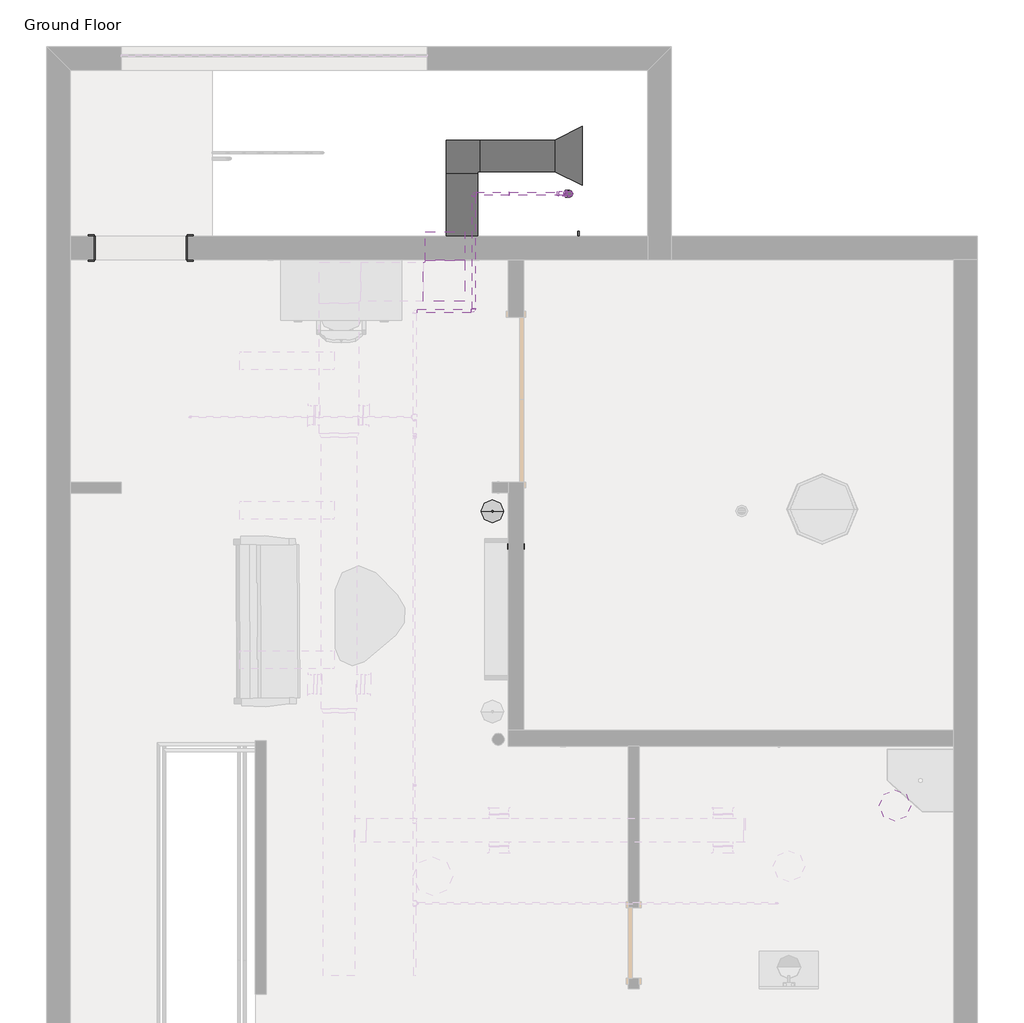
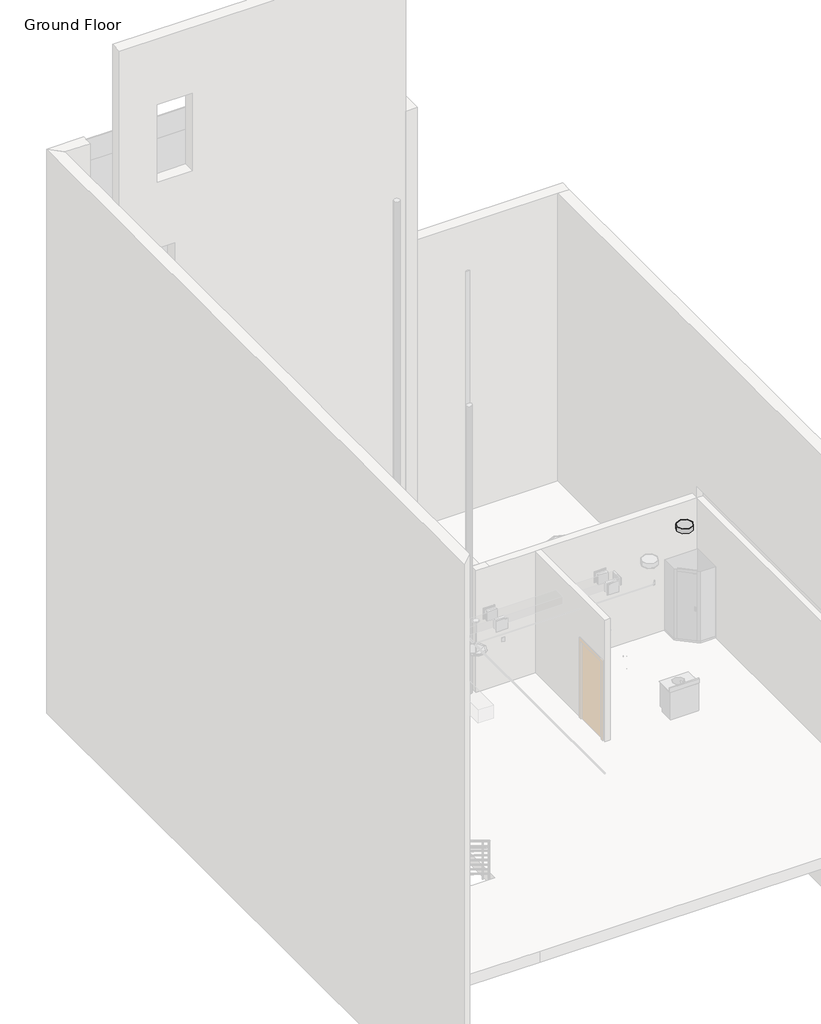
# One storey, part 4 of 4: 29 pipe segments, 25 pipe fittings, 4 proxies, 3 duct fittings, 3 duct segments, 2 light fixtures.
"""IFC4 building model written with IfcOpenShell, lengths in millimetres."""

from ifc_helpers import new_model, si_unit, point, frame, frame_2d, origin, place, context, project, spatial, polyline, circle_curve, trimmed, segment, composite_curve, outline, extrude, transform, mapped, element, save
from components import proxy_20ebd3de, pipe_wet_origin_standard_146eebac, receptacle_gfci_367a9a66, rectangular_duct_mitered_elbow_standard_69e3689b, rectangular_duct_mitered_elbow_standard_b095041a, rectangular_duct_transition_standard_2ff6c989, light_fixture_120v_8a54b260, sconce_light_flat_round_100w_120v_d640190c, pipe_elbow_standard_764eecca, pipe_elbow_standard_aad62f2d, pipe_elbow1_standard_2_557be1fc, pipe_pvc_bend_standard_97cc9b6b, pipe_pvc_bend_standard_bab017a1, pipe_pvc_bend_standard_56296a14, pipe_pvc_bend_standard_344f7d17, pipe_tee_standard_794628ef, pipe_tee_standard_66279296, pipe_transition_eccentric_standard_77c010de, pipe_transition_eccentric_standard_d8d92941, pipe_transition_eccentric_standard_c50400a5

model = new_model("IFC4")

# Units and contexts
model_context = context("Model", 3, world=origin())
ifc_project = project(units=[si_unit("LENGTHUNIT", "METRE", prefix="MILLI")], contexts=[model_context])

# Site, building, storey
site = spatial("IfcSite", under=ifc_project)
building = spatial("IfcBuilding", under=site)
storey = spatial("IfcBuildingStorey", under=building, Name="Ground Floor", Elevation=0.0)

# Proxies
placement = place(None, origin())
proxy_shape = proxy_20ebd3de(model_context)
element("IfcBuildingElementProxy", 1, Name="Opening-Cased : 48\" x 84\"", ObjectType="Opening-Cased : 48\" x 84\"", at=placement, inside=storey, context=model_context, shape_type="MappedRepresentation", body=[
    mapped(proxy_shape, transform((-3560.8326179, 9304.759643, 0.0), x_axis=(-1.0, 0.0, 0.0), y_axis=(0.0, -1.0, 0.0), z_axis=(0.0, 0.0, 1.0))),
])
pipe_wet_origin_standard_shape = pipe_wet_origin_standard_146eebac(model_context)
element("IfcBuildingElementProxy", 2, Name="Pipe Wet Origin : Standard", ObjectType="Pipe Wet Origin : Standard", at=placement, inside=storey, context=model_context, shape_type="MappedRepresentation", body=[
    mapped(pipe_wet_origin_standard_shape, transform((1209.8560388, 10004.7891583, 2997.2), x_axis=(1.0, 0.0, 0.0), y_axis=(0.0, 1.0, 0.0), z_axis=(0.0, 0.0, 1.0))),
])
receptacle_gfci_shape = receptacle_gfci_367a9a66(model_context)
element("IfcBuildingElementProxy", 3, Name="Receptacle : GFCI", ObjectType="Receptacle : GFCI", at=placement, inside=storey, context=model_context, shape_type="MappedRepresentation", body=[
    mapped(receptacle_gfci_shape, transform((1197.1560388, 5440.7266583, 1219.2), x_axis=(0.0, -1.0, 0.0), y_axis=(0.0, 0.0, 1.0), z_axis=(-1.0, 0.0, 0.0))),
])
element("IfcBuildingElementProxy", 4, Name="Receptacle : GFCI", ObjectType="Receptacle : GFCI", at=placement, inside=storey, context=model_context, shape_type="MappedRepresentation", body=[
    mapped(receptacle_gfci_shape, transform((1400.3560388, 5440.7266583, 1219.2), x_axis=(0.0, 1.0, 0.0), y_axis=(0.0, 0.0, 1.0), z_axis=(1.0, 0.0, 0.0))),
])

# Duct fittings
rectangular_duct_mitered_elbow_standard_shape = rectangular_duct_mitered_elbow_standard_69e3689b(model_context)
element("IfcDuctFitting", 5, ObjectType="Rectangular Duct Mitered Elbow : Standard", at=placement, inside=storey, context=model_context, shape_type="MappedRepresentation", body=[
    mapped(rectangular_duct_mitered_elbow_standard_shape, transform((381.361104, 8866.629515, 2743.2), x_axis=(0.0, -1.0, 0.0), y_axis=(-1.0, 0.0, 0.0), z_axis=(0.0, 0.0, -1.0))),
])
rectangular_duct_mitered_elbow_standard_2_shape = rectangular_duct_mitered_elbow_standard_b095041a(model_context)
element("IfcDuctFitting", 6, ObjectType="Rectangular Duct Mitered Elbow : Standard", at=placement, inside=storey, context=model_context, shape_type="MappedRepresentation", body=[
    mapped(rectangular_duct_mitered_elbow_standard_2_shape, transform((600.7371476, 10493.7050553, 1219.2), x_axis=(0.0, 1.0, 0.0), y_axis=(1.0, 0.0, 0.0), z_axis=(0.0, 0.0, -1.0))),
])
rectangular_duct_transition_standard_shape = rectangular_duct_transition_standard_2ff6c989(model_context)
element("IfcDuctFitting", 7, ObjectType="Rectangular Duct Transition : Standard", at=placement, inside=storey, context=model_context, shape_type="MappedRepresentation", body=[
    mapped(rectangular_duct_transition_standard_shape, transform((1803.5810388, 10493.7050553, 1219.2), x_axis=(1.0, 0.0, 0.0), y_axis=(0.0, -1.0, 0.0), z_axis=(0.0, 0.0, -1.0))),
])

# Duct segments
element("IfcDuctSegment", 8, ObjectType="Mitered Elbows / Taps Sidewall", at=placement, inside=storey, context=model_context, shape_type="SweptSolid", body=[
    extrude(outline(polyline([(127.361104, 9514.329515), (635.361104, 9514.329515), (635.361104, 9146.029515), (127.361104, 9146.029515), (127.361104, 9514.329515)])), frame((0.0, 0.0, 2540.0), z_axis=(0.0, 0.0, 1.0), x_axis=(1.0, 0.0, 0.0)), (0.0, 0.0, 1.0), 406.4),
])
element("IfcDuctSegment", 9, ObjectType="Mitered Elbows / Taps Sidewall", at=placement, inside=storey, context=model_context, shape_type="SweptSolid", body=[
    extrude(outline(polyline([(803.9371476, 9196.809643), (397.5371476, 9196.809643), (397.5371476, 10265.1050553), (803.9371476, 10265.1050553), (803.9371476, 9196.809643)])), frame((0.0, 0.0, 1016.0), z_axis=(0.0, 0.0, 1.0), x_axis=(1.0, 0.0, 0.0)), (0.0, 0.0, 1.0), 406.4),
])
element("IfcDuctSegment", 10, ObjectType="Mitered Elbows / Tees", at=placement, inside=storey, context=model_context, shape_type="SweptSolid", body=[
    extrude(outline(polyline([(829.3371476, 10290.5050553), (829.3371476, 10696.9050553), (1803.5810388, 10696.9050553), (1803.5810388, 10290.5050553), (829.3371476, 10290.5050553)])), frame((0.0, 0.0, 1016.0), z_axis=(0.0, 0.0, 1.0), x_axis=(1.0, 0.0, 0.0)), (0.0, 0.0, 1.0), 406.4),
])

# Light fixtures
light_fixture_120v_shape = light_fixture_120v_8a54b260(model_context)
element("IfcLightFixture", 11, ObjectType="Floor Lamp - Torchiere : 120V", at=placement, inside=storey, context=model_context, shape_type="MappedRepresentation", body=[
    mapped(light_fixture_120v_shape, transform((993.9560388, 5897.9266583, 0.0), x_axis=(1.0, 0.0, 0.0), y_axis=(0.0, 1.0, 0.0), z_axis=(0.0, 0.0, 1.0))),
])
sconce_light_flat_round_100w_120v_shape = sconce_light_flat_round_100w_120v_d640190c(model_context)
element("IfcLightFixture", 12, ObjectType="Sconce Light - Flat Round : 60W - 120V", at=placement, inside=storey, context=model_context, shape_type="MappedRepresentation", body=[
    mapped(sconce_light_flat_round_100w_120v_shape, transform((6200.9560388, 2091.159643, 3352.8), x_axis=(1.0, 0.0, 0.0), y_axis=(0.0, -1.0, 0.0), z_axis=(0.0, 0.0, -1.0))),
])

# Pipe fittings
pipe_elbow_standard_shape = pipe_elbow_standard_764eecca(model_context)
element("IfcPipeFitting", 13, ObjectType="Pipe Elbow1 : Standard 2", at=placement, inside=storey, context=model_context, shape_type="MappedRepresentation", body=[
    mapped(pipe_elbow_standard_shape, transform((1992.1760388, 10004.7891583, 10058.4), x_axis=(0.0, 0.0, 1.0), y_axis=(-1.0, 0.0, 0.0), z_axis=(0.0, -1.0, 0.0))),
])
pipe_elbow_standard_2_shape = pipe_elbow_standard_aad62f2d(model_context)
element("IfcPipeFitting", 14, ObjectType="Pipe Elbow1 : Standard 2", at=placement, inside=storey, context=model_context, shape_type="MappedRepresentation", body=[
    mapped(pipe_elbow_standard_2_shape, transform((7064.5560388, 2302.4378514, 914.4), x_axis=(1.0, 0.0, 0.0), y_axis=(0.0, 0.0, -1.0), z_axis=(0.0, 1.0, 0.0))),
])
element("IfcPipeFitting", 15, ObjectType="Pipe Elbow1 : Standard 2", at=placement, inside=storey, context=model_context, shape_type="MappedRepresentation", body=[
    mapped(pipe_elbow_standard_2_shape, transform((7064.5560388, 2302.4378514, -533.4), x_axis=(0.0, 0.0, -1.0), y_axis=(0.0, 1.0, 0.0), z_axis=(1.0, 0.0, 0.0))),
])
element("IfcPipeFitting", 16, ObjectType="Pipe Elbow1 : Standard 2", at=placement, inside=storey, context=model_context, shape_type="MappedRepresentation", body=[
    mapped(pipe_elbow_standard_2_shape, transform((7064.5560388, 2961.109643, -533.4), x_axis=(0.0, 1.0, 0.0), y_axis=(-1.0, 0.0, 0.0), z_axis=(0.0, 0.0, 1.0))),
])
element("IfcPipeFitting", 17, ObjectType="Pipe Elbow1 : Standard 2", at=placement, inside=storey, context=model_context, shape_type="MappedRepresentation", body=[
    mapped(pipe_elbow_standard_2_shape, transform((7013.7560388, 2530.9140608, 914.4), x_axis=(1.0, 0.0, 0.0), y_axis=(0.0, 0.0, -1.0), z_axis=(0.0, 1.0, 0.0))),
])
element("IfcPipeFitting", 18, ObjectType="Pipe Elbow1 : Standard 2", at=placement, inside=storey, context=model_context, shape_type="MappedRepresentation", body=[
    mapped(pipe_elbow_standard_2_shape, transform((7013.7560388, 2530.9140608, -609.6), x_axis=(0.0, 0.0, -1.0), y_axis=(0.0, 1.0, 0.0), z_axis=(1.0, 0.0, 0.0))),
])
element("IfcPipeFitting", 19, ObjectType="Pipe Elbow1 : Standard 2", at=placement, inside=storey, context=model_context, shape_type="MappedRepresentation", body=[
    mapped(pipe_elbow_standard_2_shape, transform((7013.7560388, 2911.897533, -609.6), x_axis=(0.0, 1.0, 0.0), y_axis=(-1.0, 0.0, 0.0), z_axis=(0.0, 0.0, 1.0))),
])
element("IfcPipeFitting", 20, ObjectType="Pipe Elbow1 : Standard 2", at=placement, inside=storey, context=model_context, shape_type="MappedRepresentation", body=[
    mapped(pipe_elbow_standard_2_shape, transform((4295.9556442, 4608.3452176, -533.4), x_axis=(0.0, 1.0, 0.0), y_axis=(-1.0, 0.0, 0.0), z_axis=(0.0, 0.0, 1.0))),
])
element("IfcPipeFitting", 21, ObjectType="Pipe Elbow1 : Standard 2", at=placement, inside=storey, context=model_context, shape_type="MappedRepresentation", body=[
    mapped(pipe_elbow_standard_2_shape, transform((2057.1068022, 4608.3452176, -533.4), x_axis=(-1.0, 0.0, 0.0), y_axis=(0.0, 1.0, 0.0), z_axis=(0.0, 0.0, -1.0))),
])
element("IfcPipeFitting", 22, ObjectType="Pipe Elbow1 : Standard 2", at=placement, inside=storey, context=model_context, shape_type="MappedRepresentation", body=[
    mapped(pipe_elbow_standard_2_shape, transform((4346.7556442, 4641.3497709, -609.6), x_axis=(0.0, 1.0, 0.0), y_axis=(-1.0, 0.0, 0.0), z_axis=(0.0, 0.0, 1.0))),
])
element("IfcPipeFitting", 23, ObjectType="Pipe Elbow1 : Standard 2", at=placement, inside=storey, context=model_context, shape_type="MappedRepresentation", body=[
    mapped(pipe_elbow_standard_2_shape, transform((2107.9068022, 4641.3497709, -609.6), x_axis=(-1.0, 0.0, 0.0), y_axis=(0.0, 1.0, 0.0), z_axis=(0.0, 0.0, -1.0))),
])
pipe_elbow1_standard_2_shape = pipe_elbow1_standard_2_557be1fc(model_context)
element("IfcPipeFitting", 24, ObjectType="Pipe Elbow1 : Standard 2", at=placement, inside=storey, context=model_context, shape_type="MappedRepresentation", body=[
    mapped(pipe_elbow1_standard_2_shape, transform((752.6560388, 8487.1391583, 2997.2), x_axis=(1.0, 0.0, 0.0), y_axis=(0.0, 1.0, 0.0), z_axis=(0.0, 0.0, 1.0))),
])
element("IfcPipeFitting", 25, ObjectType="Pipe Elbow1 : Standard 2", at=placement, inside=storey, context=model_context, shape_type="MappedRepresentation", body=[
    mapped(pipe_elbow1_standard_2_shape, transform((752.6560388, 10004.7891583, 2997.2), x_axis=(0.0, 1.0, 0.0), y_axis=(1.0, 0.0, 0.0), z_axis=(0.0, 0.0, -1.0))),
])
pipe_pvc_bend_standard_shape = pipe_pvc_bend_standard_97cc9b6b(model_context)
element("IfcPipeFitting", 26, ObjectType="Pipe PVC Bend : Standard", at=placement, inside=storey, context=model_context, shape_type="MappedRepresentation", body=[
    mapped(pipe_pvc_bend_standard_shape, transform((4219.7390215, 4517.6828713, -432.7463368), x_axis=(0.0, 0.9999457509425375, -0.010416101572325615), y_axis=(-0.9999457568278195, -0.00010848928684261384, -0.010414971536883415), z_axis=(-0.0104155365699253, 0.010415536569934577, 0.9998915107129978))),
])
pipe_pvc_bend_standard_2_shape = pipe_pvc_bend_standard_bab017a1(model_context)
element("IfcPipeFitting", 27, ObjectType="Pipe PVC Bend : Standard", at=placement, inside=storey, context=model_context, shape_type="MappedRepresentation", body=[
    mapped(pipe_pvc_bend_standard_2_shape, transform((1956.0654371, 4517.6828713, -456.3262699), x_axis=(-0.9999457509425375, 0.0, -0.010416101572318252), y_axis=(0.00010846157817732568, 0.9999457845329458, -0.010412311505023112), z_axis=(0.010415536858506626, -0.010412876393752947, -0.9998915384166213))),
])
pipe_pvc_bend_standard_3_shape = pipe_pvc_bend_standard_56296a14(model_context)
element("IfcPipeFitting", 28, ObjectType="Pipe PVC Bend : Standard", at=placement, inside=storey, context=model_context, shape_type="MappedRepresentation", body=[
    mapped(pipe_pvc_bend_standard_3_shape, transform((6531.133132, 2416.6175086, -386.5066259), x_axis=(0.0, 0.0, -1.0), y_axis=(-1.0, 0.0, 0.0), z_axis=(0.0, 1.0, 0.0))),
])
pipe_pvc_bend_standard_4_shape = pipe_pvc_bend_standard_344f7d17(model_context)
element("IfcPipeFitting", 29, ObjectType="Pipe PVC Bend : Standard", at=placement, inside=storey, context=model_context, shape_type="MappedRepresentation", body=[
    mapped(pipe_pvc_bend_standard_4_shape, transform((4219.5878267, 5901.1630952, -283.0045957), x_axis=(0.0, 0.0, -1.0), y_axis=(-0.9999999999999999, 0.0, 0.0), z_axis=(0.0, 0.9999999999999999, 0.0))),
])
element("IfcPipeFitting", 30, ObjectType="Pipe PVC Bend : Standard", at=placement, inside=storey, context=model_context, shape_type="MappedRepresentation", body=[
    mapped(pipe_pvc_bend_standard_4_shape, transform((4057.2415932, 5901.1630952, -447.1808332), x_axis=(-0.7031327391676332, 0.0, -0.7110586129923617), y_axis=(-0.7110586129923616, 0.0, 0.7031327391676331), z_axis=(0.0, 0.9999999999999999, 0.0))),
])
pipe_tee_standard_shape = pipe_tee_standard_794628ef(model_context)
element("IfcPipeFitting", 31, ObjectType="Pipe Tee : Standard", at=placement, inside=storey, context=model_context, shape_type="MappedRepresentation", body=[
    mapped(pipe_tee_standard_shape, transform((1992.1760388, 10004.7891583, 7315.2), x_axis=(0.0, 0.0, 1.0), y_axis=(1.0, 0.0, 0.0), z_axis=(0.0, 1.0, 0.0))),
])
pipe_tee_standard_2_shape = pipe_tee_standard_66279296(model_context)
element("IfcPipeFitting", 32, ObjectType="Pipe Tee : Standard", at=placement, inside=storey, context=model_context, shape_type="MappedRepresentation", body=[
    mapped(pipe_tee_standard_2_shape, transform((1992.1760388, 10004.7891583, 2997.2), x_axis=(0.0, 0.0, 1.0), y_axis=(1.0, 0.0, 0.0), z_axis=(0.0, 1.0, 0.0))),
])
element("IfcPipeFitting", 33, ObjectType="Pipe Tee : Standard", at=placement, inside=storey, context=model_context, shape_type="MappedRepresentation", body=[
    mapped(pipe_tee_standard_2_shape, transform((1992.1760388, 10004.7891583, -762.0), x_axis=(0.0, 0.0, 1.0), y_axis=(1.0, 0.0, 0.0), z_axis=(0.0, 1.0, 0.0))),
])
pipe_transition_eccentric_standard_shape = pipe_transition_eccentric_standard_77c010de(model_context)
element("IfcPipeFitting", 34, ObjectType="Pipe Transition Eccentric : Standard", at=placement, inside=storey, context=model_context, shape_type="MappedRepresentation", body=[
    mapped(pipe_transition_eccentric_standard_shape, transform((1992.1760388, 10004.7891583, 7364.4125), x_axis=(0.0, 0.0, 1.0), y_axis=(1.0, 0.0, 0.0), z_axis=(0.0, 1.0, 0.0))),
])
element("IfcPipeFitting", 35, ObjectType="Pipe Transition Eccentric : Standard", at=placement, inside=storey, context=model_context, shape_type="MappedRepresentation", body=[
    mapped(pipe_transition_eccentric_standard_shape, transform((1850.0950428, 10004.7891583, 7315.2), x_axis=(-1.0, 0.0, 0.0), y_axis=(0.0, 0.0, 1.0), z_axis=(0.0, 1.0, 0.0))),
])
pipe_transition_eccentric_standard_2_shape = pipe_transition_eccentric_standard_d8d92941(model_context)
element("IfcPipeFitting", 36, ObjectType="Pipe Transition Eccentric : Standard", at=placement, inside=storey, context=model_context, shape_type="MappedRepresentation", body=[
    mapped(pipe_transition_eccentric_standard_2_shape, transform((1936.6135388, 10004.7891583, 2997.2), x_axis=(-1.0, 0.0, 0.0), y_axis=(0.0, -1.0, 0.0), z_axis=(0.0, 0.0, 1.0))),
])
pipe_transition_eccentric_standard_3_shape = pipe_transition_eccentric_standard_c50400a5(model_context)
element("IfcPipeFitting", 37, ObjectType="Pipe Transition Eccentric : Standard", at=placement, inside=storey, context=model_context, shape_type="MappedRepresentation", body=[
    mapped(pipe_transition_eccentric_standard_3_shape, transform((1992.1760388, 10004.7891583, 3052.7625), x_axis=(0.0, 0.0, 1.0), y_axis=(1.0, 0.0, 0.0), z_axis=(0.0, 1.0, 0.0))),
])

# Pipe segments
element("IfcPipeSegment", 38, ObjectType="PVC", at=placement, inside=storey, context=model_context, shape_type="SweptSolid", body=[
    extrude(outline(composite_curve([segment(trimmed(circle_curve(frame_2d((0.0, -44.45)), 44.45), [point((0.0, 0.0))], [point((44.4500001, -44.45))], False, "CARTESIAN"), True, "CONTINUOUS"), segment(trimmed(circle_curve(frame_2d((0.0, -44.45)), 44.45), [point((44.4500001, -44.45))], [point((0.0, -88.9))], False, "CARTESIAN"), True, "CONTINUOUS"), segment(trimmed(circle_curve(frame_2d((0.0, -44.45)), 44.45), [point((0.0, -88.9))], [point((-44.45, -44.45))], False, "CARTESIAN"), True, "CONTINUOUS"), segment(trimmed(circle_curve(frame_2d((0.0, -44.45)), 44.45), [point((-44.45, -44.45))], [point((0.0, 0.0))], False, "CARTESIAN"), True, "CONTINUOUS")], self_intersect=False)), frame((2016.380622, 4562.1328713, -455.6979867), z_axis=(0.9999457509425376, 0.0, 0.010416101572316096), x_axis=(0.010416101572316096, 0.0, -0.9999457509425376)), (0.0, 0.0, 1.0), 2143.1594808),
])
element("IfcPipeSegment", 39, ObjectType="PVC", at=placement, inside=storey, context=model_context, shape_type="SweptSolid", body=[
    extrude(outline(composite_curve([segment(trimmed(circle_curve(frame_2d((0.0, -44.45)), 44.45), [point((44.45, -44.45))], [point((0.0, -88.8999999))], False, "CARTESIAN"), True, "CONTINUOUS"), segment(trimmed(circle_curve(frame_2d((0.0, -44.45)), 44.45), [point((0.0, -88.8999999))], [point((-44.45, -44.45))], False, "CARTESIAN"), True, "CONTINUOUS"), segment(trimmed(circle_curve(frame_2d((0.0, -44.45)), 44.45), [point((-44.45, -44.45))], [point((0.0, 0.0))], False, "CARTESIAN"), True, "CONTINUOUS"), segment(trimmed(circle_curve(frame_2d((0.0, -44.45)), 44.45), [point((0.0, 0.0))], [point((44.45, -44.45))], False, "CARTESIAN"), True, "CONTINUOUS")], self_intersect=False)), frame((4219.7390215, 4457.8306839, -387.670465), z_axis=(0.0, -0.9999457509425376, 0.0104161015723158), x_axis=(1.0, 0.0, 0.0)), (0.0, 0.0, 1.0), 1967.8439096),
])
element("IfcPipeSegment", 40, ObjectType="PVC", at=placement, inside=storey, context=model_context, shape_type="SweptSolid", body=[
    extrude(outline(composite_curve([segment(trimmed(circle_curve(frame_2d((0.0, -44.45)), 44.45), [point((44.45, -44.45))], [point((0.0, -88.9))], False, "CARTESIAN"), True, "CONTINUOUS"), segment(trimmed(circle_curve(frame_2d((0.0, -44.45)), 44.45), [point((0.0, -88.9))], [point((-44.45, -44.45))], False, "CARTESIAN"), True, "CONTINUOUS"), segment(trimmed(circle_curve(frame_2d((0.0, -44.45)), 44.45), [point((-44.45, -44.45))], [point((0.0, 0.0))], False, "CARTESIAN"), True, "CONTINUOUS"), segment(trimmed(circle_curve(frame_2d((0.0, -44.45)), 44.45), [point((0.0, 0.0))], [point((44.45, -44.45))], False, "CARTESIAN"), True, "CONTINUOUS")], self_intersect=False)), frame((1956.0654371, 5646.0606878, -423.6247929), z_axis=(0.0, -0.9999457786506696, 0.010413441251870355), x_axis=(1.0, 0.0, 0.0)), (0.0, 0.0, 1.0), 1067.6576474),
])
element("IfcPipeSegment", 41, ObjectType="PVC", at=placement, inside=storey, context=model_context, shape_type="SweptSolid", body=[
    extrude(outline(composite_curve([segment(trimmed(circle_curve(frame_2d((6531.133132, 2416.6175086)), 30.1625), [point((6561.295632, 2416.6175086))], [point((6531.133132, 2386.4550086))], False, "CARTESIAN"), True, "CONTINUOUS"), segment(trimmed(circle_curve(frame_2d((6531.133132, 2416.6175086)), 30.1625), [point((6531.133132, 2386.4550086))], [point((6500.970632, 2416.6175086))], False, "CARTESIAN"), True, "CONTINUOUS"), segment(trimmed(circle_curve(frame_2d((6531.133132, 2416.6175086)), 30.1625), [point((6500.970632, 2416.6175086))], [point((6531.133132, 2446.7800086))], False, "CARTESIAN"), True, "CONTINUOUS"), segment(trimmed(circle_curve(frame_2d((6531.133132, 2416.6175086)), 30.1625), [point((6531.133132, 2446.7800086))], [point((6561.295632, 2416.6175086))], False, "CARTESIAN"), True, "CONTINUOUS")], self_intersect=False)), frame((0.0, 0.0, -340.9461856), z_axis=(0.0, 0.0, 1.0), x_axis=(1.0, 0.0, 0.0)), (0.0, 0.0, 1.0), 340.9461856),
])
element("IfcPipeSegment", 42, ObjectType="PVC", at=placement, inside=storey, context=model_context, shape_type="SweptSolid", body=[
    extrude(outline(composite_curve([segment(trimmed(circle_curve(frame_2d((4219.5878267, 5901.1630952)), 44.45), [point((4264.0378267, 5901.1630952))], [point((4219.5878267, 5856.7130952))], False, "CARTESIAN"), True, "CONTINUOUS"), segment(trimmed(circle_curve(frame_2d((4219.5878267, 5901.1630952)), 44.45), [point((4219.5878267, 5856.7130952))], [point((4175.1378267, 5901.1630952))], False, "CARTESIAN"), True, "CONTINUOUS"), segment(trimmed(circle_curve(frame_2d((4219.5878267, 5901.1630952)), 44.45), [point((4175.1378267, 5901.1630952))], [point((4219.5878267, 5945.6130952))], False, "CARTESIAN"), True, "CONTINUOUS"), segment(trimmed(circle_curve(frame_2d((4219.5878267, 5901.1630952)), 44.45), [point((4219.5878267, 5945.6130952))], [point((4264.0378267, 5901.1630952))], False, "CARTESIAN"), True, "CONTINUOUS")], self_intersect=False)), frame((0.0, 0.0, -258.2149818), z_axis=(0.0, 0.0, 1.0), x_axis=(1.0, 0.0, 0.0)), (0.0, 0.0, 1.0), 137.5649818),
])
element("IfcPipeSegment", 43, ObjectType="PVC", at=placement, inside=storey, context=model_context, shape_type="SweptSolid", body=[
    extrude(outline(composite_curve([segment(trimmed(circle_curve(frame_2d((0.0, -44.45)), 44.45), [point((-44.4499999, -44.45))], [point((0.0, 0.0))], False, "CARTESIAN"), True, "CONTINUOUS"), segment(trimmed(circle_curve(frame_2d((0.0, -44.45)), 44.45), [point((0.0, 0.0))], [point((44.4500001, -44.45))], False, "CARTESIAN"), True, "CONTINUOUS"), segment(trimmed(circle_curve(frame_2d((0.0, -44.45)), 44.45), [point((44.4500001, -44.45))], [point((0.0, -88.9))], False, "CARTESIAN"), True, "CONTINUOUS"), segment(trimmed(circle_curve(frame_2d((0.0, -44.45)), 44.45), [point((0.0, -88.9))], [point((-44.4499999, -44.45))], False, "CARTESIAN"), True, "CONTINUOUS")], self_intersect=False)), frame((4074.6719824, 5945.6130952, -429.5539647), z_axis=(0.7031327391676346, 0.0, 0.7110586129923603), x_axis=(0.7110586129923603, 0.0, -0.7031327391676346)), (0.0, 0.0, 1.0), 181.3106516),
])
element("IfcPipeSegment", 44, ObjectType="Standard", at=placement, inside=storey, context=model_context, shape_type="SweptSolid", body=[
    extrude(outline(composite_curve([segment(trimmed(circle_curve(frame_2d((-533.4, 4295.9556442)), 7.9375), [point((-533.4, 4303.8931442))], [point((-525.4625, 4295.9556442))], False, "CARTESIAN"), True, "CONTINUOUS"), segment(trimmed(circle_curve(frame_2d((-533.4, 4295.9556442)), 7.9375), [point((-525.4625, 4295.9556442))], [point((-533.4, 4288.0181442))], False, "CARTESIAN"), True, "CONTINUOUS"), segment(trimmed(circle_curve(frame_2d((-533.4, 4295.9556442)), 7.9375), [point((-533.4, 4288.0181442))], [point((-541.3375, 4295.9556442))], False, "CARTESIAN"), True, "CONTINUOUS"), segment(trimmed(circle_curve(frame_2d((-533.4, 4295.9556442)), 7.9375), [point((-541.3375, 4295.9556442))], [point((-533.4, 4303.8931442))], False, "CARTESIAN"), True, "CONTINUOUS")], self_intersect=False)), frame((0.0, 2984.922143, 0.0), z_axis=(0.0, 1.0, 0.0), x_axis=(0.0, 0.0, 1.0)), (0.0, 0.0, 1.0), 1605.9605747),
])
element("IfcPipeSegment", 45, ObjectType="Standard", at=placement, inside=storey, context=model_context, shape_type="SweptSolid", body=[
    extrude(outline(composite_curve([segment(trimmed(circle_curve(frame_2d((2302.4378514, 914.4)), 7.9375), [point((2294.5003514, 914.4))], [point((2302.4378514, 922.3375))], False, "CARTESIAN"), True, "CONTINUOUS"), segment(trimmed(circle_curve(frame_2d((2302.4378514, 914.4)), 7.9375), [point((2302.4378514, 922.3375))], [point((2310.3753514, 914.4))], False, "CARTESIAN"), True, "CONTINUOUS"), segment(trimmed(circle_curve(frame_2d((2302.4378514, 914.4)), 7.9375), [point((2310.3753514, 914.4))], [point((2302.4378514, 906.4625))], False, "CARTESIAN"), True, "CONTINUOUS"), segment(trimmed(circle_curve(frame_2d((2302.4378514, 914.4)), 7.9375), [point((2302.4378514, 906.4625))], [point((2294.5003514, 914.4))], False, "CARTESIAN"), True, "CONTINUOUS")], self_intersect=False)), frame((6962.9560388, 0.0, 0.0), z_axis=(1.0, 0.0, 0.0), x_axis=(0.0, 1.0, 0.0)), (0.0, 0.0, 1.0), 84.1375),
])
element("IfcPipeSegment", 46, ObjectType="Standard", at=placement, inside=storey, context=model_context, shape_type="SweptSolid", body=[
    extrude(outline(composite_curve([segment(trimmed(circle_curve(frame_2d((7064.5560388, 2302.4378514)), 7.9375), [point((7072.4935388, 2302.4378514))], [point((7064.5560388, 2294.5003514))], False, "CARTESIAN"), True, "CONTINUOUS"), segment(trimmed(circle_curve(frame_2d((7064.5560388, 2302.4378514)), 7.9375), [point((7064.5560388, 2294.5003514))], [point((7056.6185388, 2302.4378514))], False, "CARTESIAN"), True, "CONTINUOUS"), segment(trimmed(circle_curve(frame_2d((7064.5560388, 2302.4378514)), 7.9375), [point((7056.6185388, 2302.4378514))], [point((7064.5560388, 2310.3753514))], False, "CARTESIAN"), True, "CONTINUOUS"), segment(trimmed(circle_curve(frame_2d((7064.5560388, 2302.4378514)), 7.9375), [point((7064.5560388, 2310.3753514))], [point((7072.4935388, 2302.4378514))], False, "CARTESIAN"), True, "CONTINUOUS")], self_intersect=False)), frame((0.0, 0.0, -515.9375), z_axis=(0.0, 0.0, 1.0), x_axis=(1.0, 0.0, 0.0)), (0.0, 0.0, 1.0), 1412.875),
])
element("IfcPipeSegment", 47, ObjectType="Standard", at=placement, inside=storey, context=model_context, shape_type="SweptSolid", body=[
    extrude(outline(composite_curve([segment(trimmed(circle_curve(frame_2d((-533.4, 7064.5560388)), 7.9375), [point((-533.4, 7072.4935388))], [point((-525.4625, 7064.5560388))], False, "CARTESIAN"), True, "CONTINUOUS"), segment(trimmed(circle_curve(frame_2d((-533.4, 7064.5560388)), 7.9375), [point((-525.4625, 7064.5560388))], [point((-533.4, 7056.6185388))], False, "CARTESIAN"), True, "CONTINUOUS"), segment(trimmed(circle_curve(frame_2d((-533.4, 7064.5560388)), 7.9375), [point((-533.4, 7056.6185388))], [point((-541.3375, 7064.5560388))], False, "CARTESIAN"), True, "CONTINUOUS"), segment(trimmed(circle_curve(frame_2d((-533.4, 7064.5560388)), 7.9375), [point((-541.3375, 7064.5560388))], [point((-533.4, 7072.4935388))], False, "CARTESIAN"), True, "CONTINUOUS")], self_intersect=False)), frame((0.0, 2319.9003514, 0.0), z_axis=(0.0, 1.0, 0.0), x_axis=(0.0, 0.0, 1.0)), (0.0, 0.0, 1.0), 623.7467916),
])
element("IfcPipeSegment", 48, ObjectType="Standard", at=placement, inside=storey, context=model_context, shape_type="SweptSolid", body=[
    extrude(outline(composite_curve([segment(trimmed(circle_curve(frame_2d((2961.109643, -533.4)), 7.9375), [point((2953.172143, -533.4))], [point((2961.109643, -525.4625))], False, "CARTESIAN"), True, "CONTINUOUS"), segment(trimmed(circle_curve(frame_2d((2961.109643, -533.4)), 7.9375), [point((2961.109643, -525.4625))], [point((2969.047143, -533.4))], False, "CARTESIAN"), True, "CONTINUOUS"), segment(trimmed(circle_curve(frame_2d((2961.109643, -533.4)), 7.9375), [point((2969.047143, -533.4))], [point((2961.109643, -541.3375))], False, "CARTESIAN"), True, "CONTINUOUS"), segment(trimmed(circle_curve(frame_2d((2961.109643, -533.4)), 7.9375), [point((2961.109643, -541.3375))], [point((2953.172143, -533.4))], False, "CARTESIAN"), True, "CONTINUOUS")], self_intersect=False)), frame((4726.1681442, 0.0, 0.0), z_axis=(1.0, 0.0, 0.0), x_axis=(0.0, 1.0, 0.0)), (0.0, 0.0, 1.0), 2320.9253946),
])
element("IfcPipeSegment", 49, ObjectType="Standard", at=placement, inside=storey, context=model_context, shape_type="SweptSolid", body=[
    extrude(outline(composite_curve([segment(trimmed(circle_curve(frame_2d((2530.9140608, 914.4)), 7.9375), [point((2522.9765608, 914.4))], [point((2530.9140608, 922.3375))], False, "CARTESIAN"), True, "CONTINUOUS"), segment(trimmed(circle_curve(frame_2d((2530.9140608, 914.4)), 7.9375), [point((2530.9140608, 922.3375))], [point((2538.8515608, 914.4))], False, "CARTESIAN"), True, "CONTINUOUS"), segment(trimmed(circle_curve(frame_2d((2530.9140608, 914.4)), 7.9375), [point((2538.8515608, 914.4))], [point((2530.9140608, 906.4625))], False, "CARTESIAN"), True, "CONTINUOUS"), segment(trimmed(circle_curve(frame_2d((2530.9140608, 914.4)), 7.9375), [point((2530.9140608, 906.4625))], [point((2522.9765608, 914.4))], False, "CARTESIAN"), True, "CONTINUOUS")], self_intersect=False)), frame((6962.9560388, 0.0, 0.0), z_axis=(1.0, 0.0, 0.0), x_axis=(0.0, 1.0, 0.0)), (0.0, 0.0, 1.0), 33.3375),
])
element("IfcPipeSegment", 50, ObjectType="Standard", at=placement, inside=storey, context=model_context, shape_type="SweptSolid", body=[
    extrude(outline(composite_curve([segment(trimmed(circle_curve(frame_2d((-609.6, 7013.7560388)), 7.9375), [point((-609.6, 7021.6935388))], [point((-601.6625, 7013.7560388))], False, "CARTESIAN"), True, "CONTINUOUS"), segment(trimmed(circle_curve(frame_2d((-609.6, 7013.7560388)), 7.9375), [point((-601.6625, 7013.7560388))], [point((-609.6, 7005.8185388))], False, "CARTESIAN"), True, "CONTINUOUS"), segment(trimmed(circle_curve(frame_2d((-609.6, 7013.7560388)), 7.9375), [point((-609.6, 7005.8185388))], [point((-617.5375, 7013.7560388))], False, "CARTESIAN"), True, "CONTINUOUS"), segment(trimmed(circle_curve(frame_2d((-609.6, 7013.7560388)), 7.9375), [point((-617.5375, 7013.7560388))], [point((-609.6, 7021.6935388))], False, "CARTESIAN"), True, "CONTINUOUS")], self_intersect=False)), frame((0.0, 2548.3765608, 0.0), z_axis=(0.0, 1.0, 0.0), x_axis=(0.0, 0.0, 1.0)), (0.0, 0.0, 1.0), 346.0584722),
])
element("IfcPipeSegment", 51, ObjectType="Standard", at=placement, inside=storey, context=model_context, shape_type="SweptSolid", body=[
    extrude(outline(composite_curve([segment(trimmed(circle_curve(frame_2d((7013.7560388, 2530.9140608)), 7.9375), [point((7021.6935388, 2530.9140608))], [point((7013.7560388, 2522.9765608))], False, "CARTESIAN"), True, "CONTINUOUS"), segment(trimmed(circle_curve(frame_2d((7013.7560388, 2530.9140608)), 7.9375), [point((7013.7560388, 2522.9765608))], [point((7005.8185388, 2530.9140608))], False, "CARTESIAN"), True, "CONTINUOUS"), segment(trimmed(circle_curve(frame_2d((7013.7560388, 2530.9140608)), 7.9375), [point((7005.8185388, 2530.9140608))], [point((7013.7560388, 2538.8515608))], False, "CARTESIAN"), True, "CONTINUOUS"), segment(trimmed(circle_curve(frame_2d((7013.7560388, 2530.9140608)), 7.9375), [point((7013.7560388, 2538.8515608))], [point((7021.6935388, 2530.9140608))], False, "CARTESIAN"), True, "CONTINUOUS")], self_intersect=False)), frame((0.0, 0.0, -592.1375), z_axis=(0.0, 0.0, 1.0), x_axis=(1.0, 0.0, 0.0)), (0.0, 0.0, 1.0), 1489.075),
])
element("IfcPipeSegment", 52, ObjectType="Standard", at=placement, inside=storey, context=model_context, shape_type="SweptSolid", body=[
    extrude(outline(composite_curve([segment(trimmed(circle_curve(frame_2d((2911.897533, -609.6)), 7.9375), [point((2919.835033, -609.6))], [point((2911.897533, -617.5375))], False, "CARTESIAN"), True, "CONTINUOUS"), segment(trimmed(circle_curve(frame_2d((2911.897533, -609.6)), 7.9375), [point((2911.897533, -617.5375))], [point((2903.960033, -609.6))], False, "CARTESIAN"), True, "CONTINUOUS"), segment(trimmed(circle_curve(frame_2d((2911.897533, -609.6)), 7.9375), [point((2903.960033, -609.6))], [point((2911.897533, -601.6625))], False, "CARTESIAN"), True, "CONTINUOUS"), segment(trimmed(circle_curve(frame_2d((2911.897533, -609.6)), 7.9375), [point((2911.897533, -601.6625))], [point((2919.835033, -609.6))], False, "CARTESIAN"), True, "CONTINUOUS")], self_intersect=False)), frame((4370.5681442, 0.0, 0.0), z_axis=(1.0, 0.0, 0.0), x_axis=(0.0, 1.0, 0.0)), (0.0, 0.0, 1.0), 2625.7253946),
])
element("IfcPipeSegment", 53, ObjectType="Standard", at=placement, inside=storey, context=model_context, shape_type="SweptSolid", body=[
    extrude(outline(composite_curve([segment(trimmed(circle_curve(frame_2d((4608.3452176, -533.4)), 7.9375), [point((4616.2827176, -533.4))], [point((4608.3452176, -541.3375))], False, "CARTESIAN"), True, "CONTINUOUS"), segment(trimmed(circle_curve(frame_2d((4608.3452176, -533.4)), 7.9375), [point((4608.3452176, -541.3375))], [point((4600.4077176, -533.4))], False, "CARTESIAN"), True, "CONTINUOUS"), segment(trimmed(circle_curve(frame_2d((4608.3452176, -533.4)), 7.9375), [point((4600.4077176, -533.4))], [point((4608.3452176, -525.4625))], False, "CARTESIAN"), True, "CONTINUOUS"), segment(trimmed(circle_curve(frame_2d((4608.3452176, -533.4)), 7.9375), [point((4608.3452176, -525.4625))], [point((4616.2827176, -533.4))], False, "CARTESIAN"), True, "CONTINUOUS")], self_intersect=False)), frame((2074.5693022, 0.0, 0.0), z_axis=(1.0, 0.0, 0.0), x_axis=(0.0, 1.0, 0.0)), (0.0, 0.0, 1.0), 2203.9238419),
])
element("IfcPipeSegment", 54, ObjectType="Standard", at=placement, inside=storey, context=model_context, shape_type="SweptSolid", body=[
    extrude(outline(composite_curve([segment(trimmed(circle_curve(frame_2d((-533.4, 2057.1068022)), 7.9375), [point((-533.4, 2065.0443022))], [point((-525.4625, 2057.1068022))], False, "CARTESIAN"), True, "CONTINUOUS"), segment(trimmed(circle_curve(frame_2d((-533.4, 2057.1068022)), 7.9375), [point((-525.4625, 2057.1068022))], [point((-533.4, 2049.1693022))], False, "CARTESIAN"), True, "CONTINUOUS"), segment(trimmed(circle_curve(frame_2d((-533.4, 2057.1068022)), 7.9375), [point((-533.4, 2049.1693022))], [point((-541.3375, 2057.1068022))], False, "CARTESIAN"), True, "CONTINUOUS"), segment(trimmed(circle_curve(frame_2d((-533.4, 2057.1068022)), 7.9375), [point((-541.3375, 2057.1068022))], [point((-533.4, 2065.0443022))], False, "CARTESIAN"), True, "CONTINUOUS")], self_intersect=False)), frame((0.0, 4625.8077176, 0.0), z_axis=(0.0, 1.0, 0.0), x_axis=(0.0, 0.0, 1.0)), (0.0, 0.0, 1.0), 4820.7947383),
])
element("IfcPipeSegment", 55, ObjectType="Standard", at=placement, inside=storey, context=model_context, shape_type="SweptSolid", body=[
    extrude(outline(composite_curve([segment(trimmed(circle_curve(frame_2d((-609.6, 4346.7556442)), 7.9375), [point((-609.6, 4354.6931442))], [point((-601.6625, 4346.7556442))], False, "CARTESIAN"), True, "CONTINUOUS"), segment(trimmed(circle_curve(frame_2d((-609.6, 4346.7556442)), 7.9375), [point((-601.6625, 4346.7556442))], [point((-609.6, 4338.8181442))], False, "CARTESIAN"), True, "CONTINUOUS"), segment(trimmed(circle_curve(frame_2d((-609.6, 4346.7556442)), 7.9375), [point((-609.6, 4338.8181442))], [point((-617.5375, 4346.7556442))], False, "CARTESIAN"), True, "CONTINUOUS"), segment(trimmed(circle_curve(frame_2d((-609.6, 4346.7556442)), 7.9375), [point((-617.5375, 4346.7556442))], [point((-609.6, 4354.6931442))], False, "CARTESIAN"), True, "CONTINUOUS")], self_intersect=False)), frame((0.0, 2935.710033, 0.0), z_axis=(0.0, 1.0, 0.0), x_axis=(0.0, 0.0, 1.0)), (0.0, 0.0, 1.0), 1688.1772379),
])
element("IfcPipeSegment", 56, ObjectType="Standard", at=placement, inside=storey, context=model_context, shape_type="SweptSolid", body=[
    extrude(outline(composite_curve([segment(trimmed(circle_curve(frame_2d((4641.3497709, -609.6)), 7.9375), [point((4649.2872709, -609.6))], [point((4641.3497709, -617.5375))], False, "CARTESIAN"), True, "CONTINUOUS"), segment(trimmed(circle_curve(frame_2d((4641.3497709, -609.6)), 7.9375), [point((4641.3497709, -617.5375))], [point((4633.4122709, -609.6))], False, "CARTESIAN"), True, "CONTINUOUS"), segment(trimmed(circle_curve(frame_2d((4641.3497709, -609.6)), 7.9375), [point((4633.4122709, -609.6))], [point((4641.3497709, -601.6625))], False, "CARTESIAN"), True, "CONTINUOUS"), segment(trimmed(circle_curve(frame_2d((4641.3497709, -609.6)), 7.9375), [point((4641.3497709, -601.6625))], [point((4649.2872709, -609.6))], False, "CARTESIAN"), True, "CONTINUOUS")], self_intersect=False)), frame((2125.3693022, 0.0, 0.0), z_axis=(1.0, 0.0, 0.0), x_axis=(0.0, 1.0, 0.0)), (0.0, 0.0, 1.0), 2203.9238419),
])
element("IfcPipeSegment", 57, ObjectType="Standard", at=placement, inside=storey, context=model_context, shape_type="SweptSolid", body=[
    extrude(outline(composite_curve([segment(trimmed(circle_curve(frame_2d((-609.6, 2107.9068022)), 7.9375), [point((-609.6, 2115.8443022))], [point((-601.6625, 2107.9068022))], False, "CARTESIAN"), True, "CONTINUOUS"), segment(trimmed(circle_curve(frame_2d((-609.6, 2107.9068022)), 7.9375), [point((-601.6625, 2107.9068022))], [point((-609.6, 2099.9693022))], False, "CARTESIAN"), True, "CONTINUOUS"), segment(trimmed(circle_curve(frame_2d((-609.6, 2107.9068022)), 7.9375), [point((-609.6, 2099.9693022))], [point((-617.5375, 2107.9068022))], False, "CARTESIAN"), True, "CONTINUOUS"), segment(trimmed(circle_curve(frame_2d((-609.6, 2107.9068022)), 7.9375), [point((-617.5375, 2107.9068022))], [point((-609.6, 2115.8443022))], False, "CARTESIAN"), True, "CONTINUOUS")], self_intersect=False)), frame((0.0, 4658.8122709, 0.0), z_axis=(0.0, 1.0, 0.0), x_axis=(0.0, 0.0, 1.0)), (0.0, 0.0, 1.0), 4860.3979862),
])
element("IfcPipeSegment", 58, ObjectType="Standard", at=placement, inside=storey, context=model_context, shape_type="SweptSolid", body=[
    extrude(outline(composite_curve([segment(trimmed(circle_curve(frame_2d((8487.1391583, 2997.2)), 20.6375), [point((8466.5016583, 2997.2))], [point((8487.1391583, 3017.8375))], False, "CARTESIAN"), True, "CONTINUOUS"), segment(trimmed(circle_curve(frame_2d((8487.1391583, 2997.2)), 20.6375), [point((8487.1391583, 3017.8375))], [point((8507.7766583, 2997.2))], False, "CARTESIAN"), True, "CONTINUOUS"), segment(trimmed(circle_curve(frame_2d((8487.1391583, 2997.2)), 20.6375), [point((8507.7766583, 2997.2))], [point((8487.1391583, 2976.5625))], False, "CARTESIAN"), True, "CONTINUOUS"), segment(trimmed(circle_curve(frame_2d((8487.1391583, 2997.2)), 20.6375), [point((8487.1391583, 2976.5625))], [point((8466.5016583, 2997.2))], False, "CARTESIAN"), True, "CONTINUOUS")], self_intersect=False)), frame((20.8185388, 0.0, 0.0), z_axis=(1.0, 0.0, 0.0), x_axis=(0.0, 1.0, 0.0)), (0.0, 0.0, 1.0), 701.675),
])
element("IfcPipeSegment", 59, ObjectType="Standard", at=placement, inside=storey, context=model_context, shape_type="SweptSolid", body=[
    extrude(outline(composite_curve([segment(trimmed(circle_curve(frame_2d((2997.2, 752.6560388)), 20.6375), [point((2997.2, 773.2935388))], [point((3017.8375, 752.6560388))], False, "CARTESIAN"), True, "CONTINUOUS"), segment(trimmed(circle_curve(frame_2d((2997.2, 752.6560388)), 20.6375), [point((3017.8375, 752.6560388))], [point((2997.2, 732.0185388))], False, "CARTESIAN"), True, "CONTINUOUS"), segment(trimmed(circle_curve(frame_2d((2997.2, 752.6560388)), 20.6375), [point((2997.2, 732.0185388))], [point((2976.5625, 752.6560388))], False, "CARTESIAN"), True, "CONTINUOUS"), segment(trimmed(circle_curve(frame_2d((2997.2, 752.6560388)), 20.6375), [point((2976.5625, 752.6560388))], [point((2997.2, 773.2935388))], False, "CARTESIAN"), True, "CONTINUOUS")], self_intersect=False)), frame((0.0, 8517.3016583, 0.0), z_axis=(0.0, 1.0, 0.0), x_axis=(0.0, 0.0, 1.0)), (0.0, 0.0, 1.0), 1457.325),
])
element("IfcPipeSegment", 60, ObjectType="Standard", at=placement, inside=storey, context=model_context, shape_type="SweptSolid", body=[
    extrude(outline(composite_curve([segment(trimmed(circle_curve(frame_2d((10004.7891583, 2997.2)), 20.6375), [point((9984.1516583, 2997.2))], [point((10004.7891583, 3017.8375))], False, "CARTESIAN"), True, "CONTINUOUS"), segment(trimmed(circle_curve(frame_2d((10004.7891583, 2997.2)), 20.6375), [point((10004.7891583, 3017.8375))], [point((10025.4266583, 2997.2))], False, "CARTESIAN"), True, "CONTINUOUS"), segment(trimmed(circle_curve(frame_2d((10004.7891583, 2997.2)), 20.6375), [point((10025.4266583, 2997.2))], [point((10004.7891583, 2976.5625))], False, "CARTESIAN"), True, "CONTINUOUS"), segment(trimmed(circle_curve(frame_2d((10004.7891583, 2997.2)), 20.6375), [point((10004.7891583, 2976.5625))], [point((9984.1516583, 2997.2))], False, "CARTESIAN"), True, "CONTINUOUS")], self_intersect=False)), frame((782.8185388, 0.0, 0.0), z_axis=(1.0, 0.0, 0.0), x_axis=(0.0, 1.0, 0.0)), (0.0, 0.0, 1.0), 427.0375),
])
element("IfcPipeSegment", 61, ObjectType="Standard", at=placement, inside=storey, context=model_context, shape_type="SweptSolid", body=[
    extrude(outline(composite_curve([segment(trimmed(circle_curve(frame_2d((10004.7891583, 2997.2)), 20.6375), [point((9984.1516583, 2997.2))], [point((10004.7891583, 3017.8375))], False, "CARTESIAN"), True, "CONTINUOUS"), segment(trimmed(circle_curve(frame_2d((10004.7891583, 2997.2)), 20.6375), [point((10004.7891583, 3017.8375))], [point((10025.4266583, 2997.2))], False, "CARTESIAN"), True, "CONTINUOUS"), segment(trimmed(circle_curve(frame_2d((10004.7891583, 2997.2)), 20.6375), [point((10025.4266583, 2997.2))], [point((10004.7891583, 2976.5625))], False, "CARTESIAN"), True, "CONTINUOUS"), segment(trimmed(circle_curve(frame_2d((10004.7891583, 2997.2)), 20.6375), [point((10004.7891583, 2976.5625))], [point((9984.1516583, 2997.2))], False, "CARTESIAN"), True, "CONTINUOUS")], self_intersect=False)), frame((1211.1260388, 0.0, 0.0), z_axis=(1.0, 0.0, 0.0), x_axis=(0.0, 1.0, 0.0)), (0.0, 0.0, 1.0), 705.64375),
])
element("IfcPipeSegment", 62, ObjectType="Standard", at=placement, inside=storey, context=model_context, shape_type="SweptSolid", body=[
    extrude(outline(composite_curve([segment(trimmed(circle_curve(frame_2d((1992.1760388, 10004.7891583)), 26.9875), [point((1965.1885388, 10004.7891583))], [point((1992.1760388, 10031.7766583))], False, "CARTESIAN"), True, "CONTINUOUS"), segment(trimmed(circle_curve(frame_2d((1992.1760388, 10004.7891583)), 26.9875), [point((1992.1760388, 10031.7766583))], [point((2019.1635388, 10004.7891583))], False, "CARTESIAN"), True, "CONTINUOUS"), segment(trimmed(circle_curve(frame_2d((1992.1760388, 10004.7891583)), 26.9875), [point((2019.1635388, 10004.7891583))], [point((1992.1760388, 9977.8016583))], False, "CARTESIAN"), True, "CONTINUOUS"), segment(trimmed(circle_curve(frame_2d((1992.1760388, 10004.7891583)), 26.9875), [point((1992.1760388, 9977.8016583))], [point((1965.1885388, 10004.7891583))], False, "CARTESIAN"), True, "CONTINUOUS")], self_intersect=False)), frame((0.0, 0.0, 7381.08125), z_axis=(0.0, 0.0, 1.0), x_axis=(1.0, 0.0, 0.0)), (0.0, 0.0, 1.0), 2640.80625),
])
element("IfcPipeSegment", 63, ObjectType="Standard", at=placement, inside=storey, context=model_context, shape_type="SweptSolid", body=[
    extrude(outline(composite_curve([segment(trimmed(circle_curve(frame_2d((1992.1760388, 10004.7891583)), 33.3375), [point((1958.8385388, 10004.7891583))], [point((1992.1760388, 10038.1266583))], False, "CARTESIAN"), True, "CONTINUOUS"), segment(trimmed(circle_curve(frame_2d((1992.1760388, 10004.7891583)), 33.3375), [point((1992.1760388, 10038.1266583))], [point((2025.5135388, 10004.7891583))], False, "CARTESIAN"), True, "CONTINUOUS"), segment(trimmed(circle_curve(frame_2d((1992.1760388, 10004.7891583)), 33.3375), [point((2025.5135388, 10004.7891583))], [point((1992.1760388, 9971.4516583))], False, "CARTESIAN"), True, "CONTINUOUS"), segment(trimmed(circle_curve(frame_2d((1992.1760388, 10004.7891583)), 33.3375), [point((1992.1760388, 9971.4516583))], [point((1958.8385388, 10004.7891583))], False, "CARTESIAN"), True, "CONTINUOUS")], self_intersect=False)), frame((0.0, 0.0, 3072.60625), z_axis=(0.0, 0.0, 1.0), x_axis=(1.0, 0.0, 0.0)), (0.0, 0.0, 1.0), 4193.38125),
])
element("IfcPipeSegment", 64, ObjectType="Standard", at=placement, inside=storey, context=model_context, shape_type="SweptSolid", body=[
    extrude(outline(composite_curve([segment(trimmed(circle_curve(frame_2d((1992.1760388, 10004.7891583)), 39.6875), [point((1992.1760388, 10044.4766583))], [point((2031.8635388, 10004.7891583))], False, "CARTESIAN"), True, "CONTINUOUS"), segment(trimmed(circle_curve(frame_2d((1992.1760388, 10004.7891583)), 39.6875), [point((2031.8635388, 10004.7891583))], [point((1992.1760388, 9965.1016583))], False, "CARTESIAN"), True, "CONTINUOUS"), segment(trimmed(circle_curve(frame_2d((1992.1760388, 10004.7891583)), 39.6875), [point((1992.1760388, 9965.1016583))], [point((1952.4885388, 10004.7891583))], False, "CARTESIAN"), True, "CONTINUOUS"), segment(trimmed(circle_curve(frame_2d((1992.1760388, 10004.7891583)), 39.6875), [point((1952.4885388, 10004.7891583))], [point((1992.1760388, 10044.4766583))], False, "CARTESIAN"), True, "CONTINUOUS")], self_intersect=False)), frame((0.0, 0.0, -2389.1875), z_axis=(0.0, 0.0, 1.0), x_axis=(1.0, 0.0, 0.0)), (0.0, 0.0, 1.0), 1571.625),
])
element("IfcPipeSegment", 65, ObjectType="Standard", at=placement, inside=storey, context=model_context, shape_type="SweptSolid", body=[
    extrude(outline(composite_curve([segment(trimmed(circle_curve(frame_2d((10004.7891583, 7315.2)), 33.3375), [point((10004.7891583, 7281.8625))], [point((9971.4516583, 7315.2))], False, "CARTESIAN"), True, "CONTINUOUS"), segment(trimmed(circle_curve(frame_2d((10004.7891583, 7315.2)), 33.3375), [point((9971.4516583, 7315.2))], [point((10004.7891583, 7348.5375))], False, "CARTESIAN"), True, "CONTINUOUS"), segment(trimmed(circle_curve(frame_2d((10004.7891583, 7315.2)), 33.3375), [point((10004.7891583, 7348.5375))], [point((10038.1266583, 7315.2))], False, "CARTESIAN"), True, "CONTINUOUS"), segment(trimmed(circle_curve(frame_2d((10004.7891583, 7315.2)), 33.3375), [point((10038.1266583, 7315.2))], [point((10004.7891583, 7281.8625))], False, "CARTESIAN"), True, "CONTINUOUS")], self_intersect=False)), frame((1850.0950428, 0.0, 0.0), z_axis=(1.0, 0.0, 0.0), x_axis=(0.0, 1.0, 0.0)), (0.0, 0.0, 1.0), 92.868496),
])
element("IfcPipeSegment", 66, ObjectType="Standard", at=placement, inside=storey, context=model_context, shape_type="SweptSolid", body=[
    extrude(outline(composite_curve([segment(trimmed(circle_curve(frame_2d((1992.1760388, 10004.7891583)), 39.6875), [point((1992.1760388, 10044.4766583))], [point((2031.8635388, 10004.7891583))], False, "CARTESIAN"), True, "CONTINUOUS"), segment(trimmed(circle_curve(frame_2d((1992.1760388, 10004.7891583)), 39.6875), [point((2031.8635388, 10004.7891583))], [point((1992.1760388, 9965.1016583))], False, "CARTESIAN"), True, "CONTINUOUS"), segment(trimmed(circle_curve(frame_2d((1992.1760388, 10004.7891583)), 39.6875), [point((1992.1760388, 9965.1016583))], [point((1952.4885388, 10004.7891583))], False, "CARTESIAN"), True, "CONTINUOUS"), segment(trimmed(circle_curve(frame_2d((1992.1760388, 10004.7891583)), 39.6875), [point((1952.4885388, 10004.7891583))], [point((1992.1760388, 10044.4766583))], False, "CARTESIAN"), True, "CONTINUOUS")], self_intersect=False)), frame((0.0, 0.0, -706.4375), z_axis=(0.0, 0.0, 1.0), x_axis=(1.0, 0.0, 0.0)), (0.0, 0.0, 1.0), 3648.075),
])

save(model, "model.ifc")
